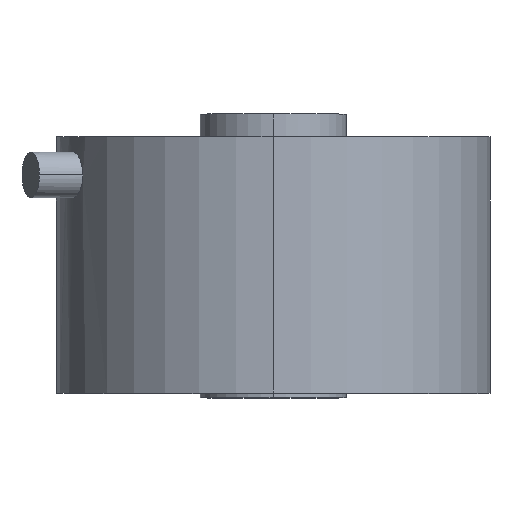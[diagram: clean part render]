
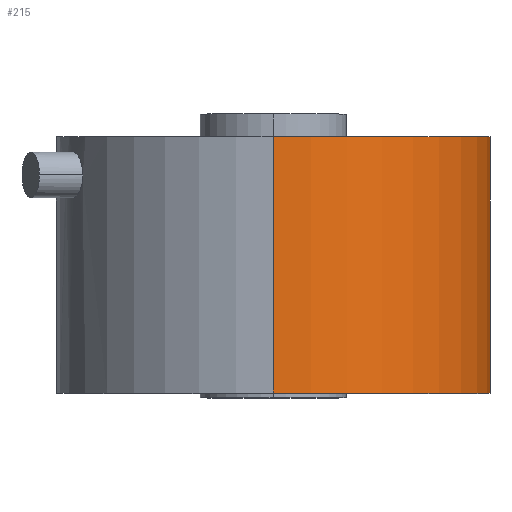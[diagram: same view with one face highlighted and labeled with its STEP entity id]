
A CAD part, top view. The second image highlights one B-rep face of the part: STEP entity #215.
In plain terms, the highlighted cylindrical face has radius 60.325 mm (diameter 120.65 mm), a partial arc.
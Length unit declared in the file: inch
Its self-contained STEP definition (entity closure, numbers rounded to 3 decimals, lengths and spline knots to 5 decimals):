
#46 = CARTESIAN_POINT ( 'NONE',  ( 0., 2.81, -2.375 ) ) ;
#194 = LINE ( 'NONE', #46, #490 ) ;
#215 = ADVANCED_FACE ( 'NONE', ( #557 ), #507, .T. ) ;
#251 = ORIENTED_EDGE ( 'NONE', *, *, #1321, .F. ) ;
#260 = LINE ( 'NONE', #1475, #1875 ) ;
#285 = CIRCLE ( 'NONE', #1377, 2.375 ) ;
#303 = ORIENTED_EDGE ( 'NONE', *, *, #474, .T. ) ;
#308 = CARTESIAN_POINT ( 'NONE',  ( 0., 2.81, 0. ) ) ;
#438 = ORIENTED_EDGE ( 'NONE', *, *, #450, .T. ) ;
#450 = EDGE_CURVE ( 'NONE', #779, #776, #260, .T. ) ;
#455 = DIRECTION ( 'NONE',  ( 0., 1., 0. ) ) ;
#474 = EDGE_CURVE ( 'NONE', #776, #910, #285, .T. ) ;
#490 = VECTOR ( 'NONE', #957, 39.37008 ) ;
#507 = CYLINDRICAL_SURFACE ( 'NONE', #1059, 2.375 ) ;
#557 = FACE_OUTER_BOUND ( 'NONE', #1674, .T. ) ;
#724 = CARTESIAN_POINT ( 'NONE',  ( 0., 0., 0. ) ) ;
#776 = VERTEX_POINT ( 'NONE', #1555 ) ;
#779 = VERTEX_POINT ( 'NONE', #1425 ) ;
#901 = CARTESIAN_POINT ( 'NONE',  ( 0., 2.81, -2.375 ) ) ;
#910 = VERTEX_POINT ( 'NONE', #991 ) ;
#957 = DIRECTION ( 'NONE',  ( 0., -1., 0. ) ) ;
#991 = CARTESIAN_POINT ( 'NONE',  ( 0., 0., -2.375 ) ) ;
#1003 = DIRECTION ( 'NONE',  ( 0., 1., 0. ) ) ;
#1059 = AXIS2_PLACEMENT_3D ( 'NONE', #1840, #1220, #1380 ) ;
#1148 = CIRCLE ( 'NONE', #1816, 2.375 ) ;
#1220 = DIRECTION ( 'NONE',  ( 0., -1., 0. ) ) ;
#1321 = EDGE_CURVE ( 'NONE', #779, #1544, #1148, .T. ) ;
#1377 = AXIS2_PLACEMENT_3D ( 'NONE', #724, #1003, #1827 ) ;
#1380 = DIRECTION ( 'NONE',  ( 0., 0., -1. ) ) ;
#1425 = CARTESIAN_POINT ( 'NONE',  ( 0., 2.81, 2.375 ) ) ;
#1475 = CARTESIAN_POINT ( 'NONE',  ( 0., 2.81, 2.375 ) ) ;
#1489 = DIRECTION ( 'NONE',  ( 0., -1., 0. ) ) ;
#1544 = VERTEX_POINT ( 'NONE', #901 ) ;
#1555 = CARTESIAN_POINT ( 'NONE',  ( 0., 0., 2.375 ) ) ;
#1674 = EDGE_LOOP ( 'NONE', ( #251, #438, #303, #1679 ) ) ;
#1679 = ORIENTED_EDGE ( 'NONE', *, *, #1690, .F. ) ;
#1690 = EDGE_CURVE ( 'NONE', #1544, #910, #194, .T. ) ;
#1816 = AXIS2_PLACEMENT_3D ( 'NONE', #308, #455, #1851 ) ;
#1827 = DIRECTION ( 'NONE',  ( 0., 0., 1. ) ) ;
#1840 = CARTESIAN_POINT ( 'NONE',  ( 0., 2.81, 0. ) ) ;
#1851 = DIRECTION ( 'NONE',  ( 0., 0., 1. ) ) ;
#1875 = VECTOR ( 'NONE', #1489, 39.37008 ) ;
